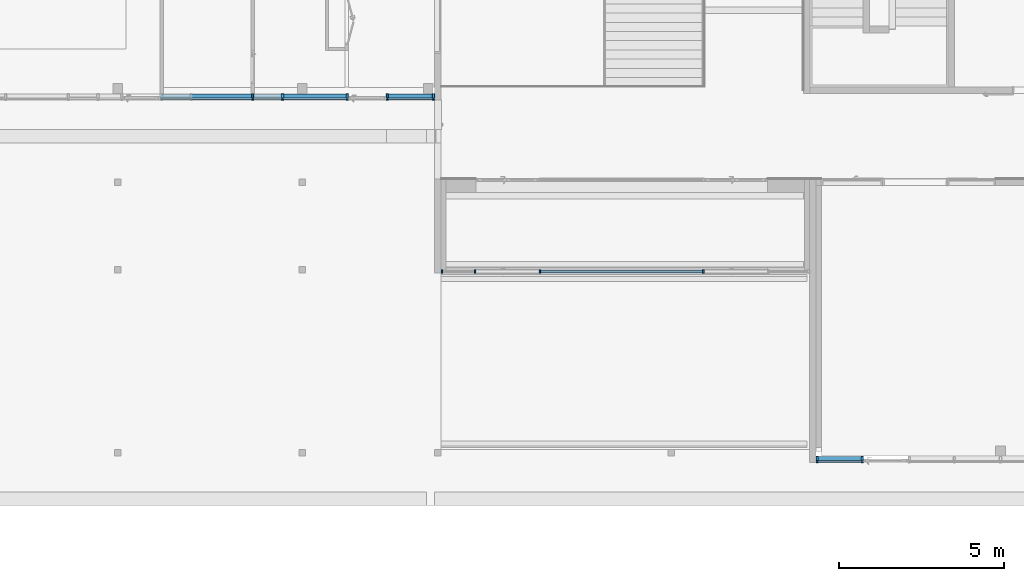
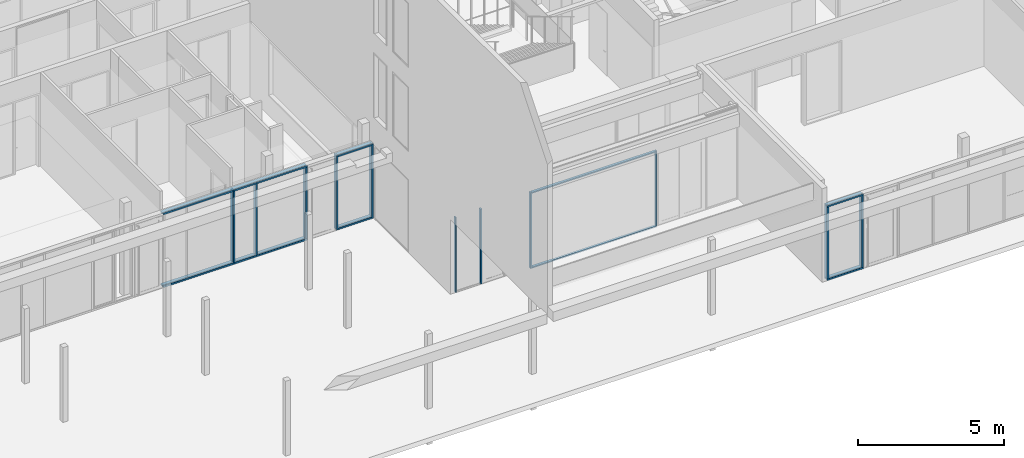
# One storey, part 19 of 240: 22 members, 5 elements without a shape of their own.
"""IFC2X3 building model written with IfcOpenShell, lengths in centimetres."""

from ifc_helpers import new_model, entity, si_unit, converted_unit, derived_unit, direction, frame, origin, origin_2d_with_axis, place, context, subcontext, project, spatial, polyline, rectangle, outline, extrude, source, transform, mapped, material, type_object, type_shapes, element, aggregate, save


model = new_model("IFC2X3")

# Units and contexts
model_context = context("Model", 3, precision=0.001, world=origin(), true_north=direction((6.12303176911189e-17, 1.0)))
body_context = subcontext(model_context, "Body", "Model", "MODEL_VIEW")
ifc_project = project(units=[si_unit("LENGTHUNIT", "METRE", prefix="CENTI"), si_unit("AREAUNIT", "SQUARE_METRE"), si_unit("VOLUMEUNIT", "CUBIC_METRE"), converted_unit("PLANEANGLEUNIT", "DEGREE", entity("IfcRatioMeasure", 0.0174532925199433), si_unit("PLANEANGLEUNIT", "RADIAN"), dimensions=[0, 0, 0, 0, 0, 0, 0]), si_unit("MASSUNIT", "GRAM", prefix="KILO"), derived_unit("MASSDENSITYUNIT", [(si_unit("MASSUNIT", "GRAM", prefix="KILO"), 1), (si_unit("LENGTHUNIT", "METRE"), -3)]), si_unit("TIMEUNIT", "SECOND"), si_unit("FREQUENCYUNIT", "HERTZ"), si_unit("THERMODYNAMICTEMPERATUREUNIT", "DEGREE_CELSIUS"), derived_unit("THERMALTRANSMITTANCEUNIT", [(si_unit("MASSUNIT", "GRAM", prefix="KILO"), 1), (si_unit("THERMODYNAMICTEMPERATUREUNIT", "KELVIN"), -1), (si_unit("TIMEUNIT", "SECOND"), -3)]), derived_unit("VOLUMETRICFLOWRATEUNIT", [(si_unit("LENGTHUNIT", "METRE"), 3), (si_unit("TIMEUNIT", "SECOND"), -1)]), si_unit("ELECTRICCURRENTUNIT", "AMPERE"), si_unit("ELECTRICVOLTAGEUNIT", "VOLT"), si_unit("POWERUNIT", "WATT"), si_unit("FORCEUNIT", "NEWTON", prefix="KILO"), si_unit("ILLUMINANCEUNIT", "LUX"), si_unit("LUMINOUSFLUXUNIT", "LUMEN"), si_unit("LUMINOUSINTENSITYUNIT", "CANDELA"), derived_unit("USERDEFINED", [(si_unit("MASSUNIT", "GRAM", prefix="KILO"), -1), (si_unit("LENGTHUNIT", "METRE"), -2), (si_unit("TIMEUNIT", "SECOND"), 3), (si_unit("LUMINOUSFLUXUNIT", "LUMEN"), 1)]), derived_unit("LINEARVELOCITYUNIT", [(si_unit("LENGTHUNIT", "METRE"), 1), (si_unit("TIMEUNIT", "SECOND"), -1)]), si_unit("PRESSUREUNIT", "PASCAL"), derived_unit("USERDEFINED", [(si_unit("LENGTHUNIT", "METRE"), -2), (si_unit("MASSUNIT", "GRAM", prefix="KILO"), 1), (si_unit("TIMEUNIT", "SECOND"), -2)])], contexts=[model_context])

# Site, building, storey
site_placement = place(None, frame((-2781.94577612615, 7442.24238424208, 0.0)))
site = spatial("IfcSite", under=ifc_project, at=site_placement, Name="Default", CompositionType="ELEMENT")
building_placement = place(site_placement, origin())
building = spatial("IfcBuilding", under=site, at=building_placement, CompositionType="ELEMENT")
storey_placement = place(building_placement, origin())
storey = spatial("IfcBuildingStorey", under=building, at=storey_placement, Name="N00 - COO", CompositionType="ELEMENT", Elevation=0.0)

# Curtain wall, member
curtain_wall_type_1 = type_object("IfcCurtainWallType", Name="Mur-rideau:07 - mur rideau trame 140 cm", PredefinedType="NOTDEFINED")
curtain_wall_1_placement = place(building_placement, origin())
curtain_wall_1 = element("IfcCurtainWall", 1, at=curtain_wall_1_placement, inside=storey, type_object=curtain_wall_type_1, Name="Mur-rideau:07 - mur rideau trame 140 cm", ObjectType="Mur-rideau:07 - mur rideau trame 140 cm")
ifc_material_1 = material(Name="Aluminium")
member_type_1 = type_object("IfcMemberType", Name="150 x 25mm Détails", PredefinedType="MEMBER")
shared_shape_1 = source(origin(), body_context, "Body", "SweptSolid", [
    extrude(outline(polyline([(-5.66666666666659, -3.25), (-3.66666666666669, -3.25), (-3.66666666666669, -0.868749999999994), (-0.166666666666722, -0.868749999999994), (-0.166666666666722, -3.25000000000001), (13.3333333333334, -3.24999999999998), (13.3333333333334, 3.25000000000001), (-0.166666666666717, 3.25000000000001), (-0.166666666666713, 0.868749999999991), (-3.66666666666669, 0.868749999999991), (-3.66666666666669, 3.24999999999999), (-5.66666666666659, 3.24999999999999), (-5.66666666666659, -3.25)])), frame((-3.24999999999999, -1.96666666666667, -299.5), z_axis=(0.0, 0.0, 1.0), x_axis=(0.0, -1.0, 0.0)), (0.0, 0.0, 1.0), 299.5),
])
type_shapes(member_type_1, [shared_shape_1])
member_1_placement = place(building_placement, frame((-3629.49987968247, -3046.51349958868, 306.0), z_axis=(0.0, 0.0, 1.0), x_axis=(-1.0, 0.0, 0.0)))
member_1 = element("IfcMember", 2, at=member_1_placement, type_object=member_type_1, material=ifc_material_1, Name="Meneau rectangulaire:150 x 25mm Détails", ObjectType="Meneau rectangulaire:150 x 25mm Détails", context=body_context, shape_type="MappedRepresentation", body=[
    mapped(shared_shape_1, transform((0.0, 0.0, 0.0), scale=1.0)),
])

# Curtain wall, members
curtain_wall_type_2 = type_object("IfcCurtainWallType", Name="Mur-rideau:07 - mur rideau trame 280 cm", PredefinedType="NOTDEFINED")
curtain_wall_2_placement = place(building_placement, origin())
curtain_wall_2 = element("IfcCurtainWall", 3, at=curtain_wall_2_placement, inside=storey, type_object=curtain_wall_type_2, Name="Mur-rideau:07 - mur rideau trame 280 cm", ObjectType="Mur-rideau:07 - mur rideau trame 280 cm")
member_2_placement = place(building_placement, frame((-5252.74987757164, -1946.27903364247, 306.0), z_axis=(0.0, 0.0, 1.0), x_axis=(-1.0, 0.0, 0.0)))
member_2 = element("IfcMember", 4, at=member_2_placement, type_object=member_type_1, material=ifc_material_1, Name="Meneau rectangulaire:150 x 25mm Détails", ObjectType="Meneau rectangulaire:150 x 25mm Détails", context=body_context, shape_type="MappedRepresentation", body=[
    mapped(shared_shape_1, transform((0.0, 0.0, 0.0), scale=1.0)),
])
member_type_2 = type_object("IfcMemberType", Name="150 x 25mm Détails", PredefinedType="MEMBER")
shared_shape_2 = source(origin(), body_context, "Body", "SweptSolid", [
    extrude(outline(polyline([(-5.6666666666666, -3.24999999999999), (-3.66666666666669, -3.24999999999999), (-3.66666666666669, -0.868749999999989), (-0.166666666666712, -0.868749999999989), (-0.166666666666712, -3.25000000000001), (13.3333333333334, -3.25000000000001), (13.3333333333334, 3.24999999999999), (-0.16666666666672, 3.24999999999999), (-0.16666666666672, 0.868749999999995), (-3.66666666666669, 0.868749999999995), (-3.66666666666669, 3.25), (-5.6666666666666, 3.25), (-5.6666666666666, -3.24999999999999)])), frame((-3.24999999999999, -1.96666666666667, -299.5), z_axis=(0.0, 0.0, 1.0), x_axis=(0.0, -1.0, 0.0)), (0.0, 0.0, 1.0), 299.5),
])
type_shapes(member_type_2, [shared_shape_2])
member_3_placement = place(building_placement, frame((-5336.24987757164, -1946.27903364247, 6.5), z_axis=(0.0, 0.0, -1.0), x_axis=(1.0, 0.0, 0.0)))
member_3 = element("IfcMember", 5, at=member_3_placement, type_object=member_type_2, material=ifc_material_1, Name="Meneau rectangulaire:150 x 25mm Détails", ObjectType="Meneau rectangulaire:150 x 25mm Détails", context=body_context, shape_type="MappedRepresentation", body=[
    mapped(shared_shape_2, transform((0.0, 0.0, 0.0), scale=1.0)),
])

# Member
member_type_3 = type_object("IfcMemberType", Name="150 x 25mm Détails", PredefinedType="MEMBER")
shared_shape_3 = source(origin(), body_context, "Body", "SweptSolid", [
    extrude(outline(polyline([(-5.66666666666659, -3.25), (-3.66666666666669, -3.25), (-3.66666666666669, -0.868749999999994), (-0.166666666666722, -0.868749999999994), (-0.166666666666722, -3.25000000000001), (13.3333333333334, -3.24999999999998), (13.3333333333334, 3.25000000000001), (-0.166666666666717, 3.25000000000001), (-0.166666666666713, 0.868749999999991), (-3.66666666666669, 0.868749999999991), (-3.66666666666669, 3.24999999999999), (-5.66666666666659, 3.24999999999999), (-5.66666666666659, -3.25)])), frame((-3.24999999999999, -1.96666666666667, -143.25000003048), z_axis=(0.0, 0.0, 1.0), x_axis=(0.0, -1.0, 0.0)), (0.0, 0.0, 1.0), 143.25000003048),
])
type_shapes(member_type_3, [shared_shape_3])
member_4_placement = place(building_placement, frame((-3629.49987968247, -3046.51349958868, 0.0), z_axis=(-1.0, 0.0, 0.0), x_axis=(0.0, 0.0, -1.0)))
member_4 = element("IfcMember", 6, at=member_4_placement, type_object=member_type_3, material=ifc_material_1, Name="Meneau rectangulaire:150 x 25mm Détails", ObjectType="Meneau rectangulaire:150 x 25mm Détails", context=body_context, shape_type="MappedRepresentation", body=[
    mapped(shared_shape_3, transform((0.0, 0.0, 0.0), scale=1.0)),
])

member_type_4 = type_object("IfcMemberType", Name="150 x 25mm Détails", PredefinedType="MEMBER")
shared_shape_4 = source(origin(), body_context, "Body", "SweptSolid", [
    extrude(outline(polyline([(-5.6666666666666, -3.24999999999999), (-3.66666666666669, -3.24999999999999), (-3.66666666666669, -0.868749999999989), (-0.166666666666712, -0.868749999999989), (-0.166666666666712, -3.25000000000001), (13.3333333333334, -3.25000000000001), (13.3333333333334, 3.24999999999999), (-0.16666666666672, 3.24999999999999), (-0.16666666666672, 0.868749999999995), (-3.66666666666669, 0.868749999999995), (-3.66666666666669, 3.25), (-5.6666666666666, 3.25), (-5.6666666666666, -3.24999999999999)])), frame((-3.24999999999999, -1.96666666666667, -143.25000003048), z_axis=(0.0, 0.0, 1.0), x_axis=(0.0, -1.0, 0.0)), (0.0, 0.0, 1.0), 143.25000003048),
])
type_shapes(member_type_4, [shared_shape_4])
member_5_placement = place(building_placement, frame((-3486.24987965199, -3046.51349958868, 312.5), z_axis=(1.0, 0.0, 0.0), x_axis=(0.0, 0.0, 1.0)))
member_5 = element("IfcMember", 7, at=member_5_placement, type_object=member_type_4, material=ifc_material_1, Name="Meneau rectangulaire:150 x 25mm Détails", ObjectType="Meneau rectangulaire:150 x 25mm Détails", context=body_context, shape_type="MappedRepresentation", body=[
    mapped(shared_shape_4, transform((0.0, 0.0, 0.0), scale=1.0)),
])

member_type_5 = type_object("IfcMemberType", Name="150 x 25mm Détails", PredefinedType="MEMBER")
shared_shape_5 = source(origin(), body_context, "Body", "SweptSolid", [
    extrude(outline(polyline([(-5.6666666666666, -3.24999999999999), (-3.66666666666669, -3.24999999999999), (-3.66666666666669, -0.86874999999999), (-0.166666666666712, -0.86874999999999), (-0.166666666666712, -3.25000000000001), (13.3333333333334, -3.25000000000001), (13.3333333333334, 3.24999999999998), (-0.16666666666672, 3.24999999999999), (-0.16666666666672, 0.868749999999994), (-3.66666666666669, 0.868749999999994), (-3.66666666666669, 3.25), (-5.6666666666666, 3.25), (-5.6666666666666, -3.24999999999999)])), frame((0.0, -1.96666666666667, -299.5), z_axis=(0.0, 0.0, 1.0), x_axis=(0.0, -1.0, 0.0)), (0.0, 0.0, 1.0), 299.5),
])
type_shapes(member_type_5, [shared_shape_5])
member_6_placement = place(building_placement, frame((-3489.49987965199, -3046.51349958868, 6.49999999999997), z_axis=(0.0, 0.0, -1.0), x_axis=(1.0, 0.0, 0.0)))
member_6 = element("IfcMember", 8, at=member_6_placement, type_object=member_type_5, material=ifc_material_1, Name="Meneau rectangulaire:150 x 25mm Détails", ObjectType="Meneau rectangulaire:150 x 25mm Détails", context=body_context, shape_type="MappedRepresentation", body=[
    mapped(shared_shape_5, transform((0.0, 0.0, 0.0), scale=1.0)),
])

aggregate(curtain_wall_1, [member_4, member_1, member_5, member_6])

member_type_6 = type_object("IfcMemberType", Name="150 x 25mm Détails", PredefinedType="MEMBER")
shared_shape_6 = source(origin(), body_context, "Body", "SweptSolid", [
    extrude(outline(polyline([(-5.66666666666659, -3.25), (-3.66666666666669, -3.25), (-3.66666666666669, -0.868749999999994), (-0.166666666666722, -0.868749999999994), (-0.166666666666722, -3.25000000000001), (13.3333333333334, -3.24999999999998), (13.3333333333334, 3.25000000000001), (-0.166666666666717, 3.25000000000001), (-0.166666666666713, 0.868749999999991), (-3.66666666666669, 0.868749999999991), (-3.66666666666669, 3.24999999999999), (-5.66666666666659, 3.24999999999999), (-5.66666666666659, -3.25)])), frame((-3.24999999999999, -1.96666666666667, -280.0), z_axis=(0.0, 0.0, 1.0), x_axis=(0.0, -1.0, 0.0)), (0.0, 0.0, 1.0), 280.00000003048),
])
type_shapes(member_type_6, [shared_shape_6])
member_7_placement = place(building_placement, frame((-5619.49987760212, -1946.27903364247, 0.0), z_axis=(-1.0, 0.0, 0.0), x_axis=(0.0, 0.0, -1.0)))
member_7 = element("IfcMember", 9, at=member_7_placement, type_object=member_type_6, material=ifc_material_1, Name="Meneau rectangulaire:150 x 25mm Détails", ObjectType="Meneau rectangulaire:150 x 25mm Détails", context=body_context, shape_type="MappedRepresentation", body=[
    mapped(shared_shape_6, transform((0.0, 0.0, 0.0), scale=1.0)),
])

member_type_7 = type_object("IfcMemberType", Name="150 x 25mm Détails", PredefinedType="MEMBER")
shared_shape_7 = source(origin(), body_context, "Body", "SweptSolid", [
    extrude(outline(polyline([(-5.66666666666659, -3.24999999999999), (-3.66666666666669, -3.24999999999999), (-3.66666666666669, -0.86874999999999), (-0.166666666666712, -0.86874999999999), (-0.166666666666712, -3.25000000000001), (13.3333333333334, -3.25000000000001), (13.3333333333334, 3.24999999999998), (-0.166666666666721, 3.24999999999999), (-0.166666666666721, 0.868749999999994), (-3.66666666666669, 0.868749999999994), (-3.66666666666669, 3.25), (-5.66666666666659, 3.25), (-5.66666666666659, -3.24999999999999)])), frame((0.0, -1.96666666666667, -298.0), z_axis=(0.0, 0.0, 1.0), x_axis=(0.0, -1.0, 0.0)), (0.0, 0.0, 1.0), 298.0),
])
type_shapes(member_type_7, [shared_shape_7])
member_8_placement = place(building_placement, frame((-5339.49987757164, -1946.27903364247, 6.49999999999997), z_axis=(0.0, 0.0, -1.0), x_axis=(1.0, 0.0, 0.0)))
member_8 = element("IfcMember", 10, at=member_8_placement, type_object=member_type_7, material=ifc_material_1, Name="Meneau rectangulaire:150 x 25mm Détails", ObjectType="Meneau rectangulaire:150 x 25mm Détails", context=body_context, shape_type="MappedRepresentation", body=[
    mapped(shared_shape_7, transform((0.0, 0.0, 0.0), scale=1.0)),
])

member_9_placement = place(building_placement, frame((-5052.74987760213, -1946.27903364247, 6.49999999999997), z_axis=(0.0, 0.0, -1.0), x_axis=(1.0, 0.0, 0.0)))
member_9 = element("IfcMember", 11, at=member_9_placement, type_object=member_type_7, material=ifc_material_1, Name="Meneau rectangulaire:150 x 25mm Détails", ObjectType="Meneau rectangulaire:150 x 25mm Détails", context=body_context, shape_type="MappedRepresentation", body=[
    mapped(shared_shape_7, transform((0.0, 0.0, 0.0), scale=1.0)),
])

member_type_8 = type_object("IfcMemberType", Name="150 x 25mm Détails", PredefinedType="MEMBER")
shared_shape_8 = source(origin(), body_context, "Body", "SweptSolid", [
    extrude(outline(polyline([(-5.6666666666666, -3.24999999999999), (-3.66666666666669, -3.24999999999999), (-3.66666666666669, -0.868749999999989), (-0.166666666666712, -0.868749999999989), (-0.166666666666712, -3.25000000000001), (13.3333333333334, -3.25000000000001), (13.3333333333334, 3.24999999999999), (-0.16666666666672, 3.24999999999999), (-0.16666666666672, 0.868749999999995), (-3.66666666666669, 0.868749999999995), (-3.66666666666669, 3.25), (-5.6666666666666, 3.25), (-5.6666666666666, -3.24999999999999)])), frame((-3.24999999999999, -1.96666666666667, -280.0), z_axis=(0.0, 0.0, 1.0), x_axis=(0.0, -1.0, 0.0)), (0.0, 0.0, 1.0), 280.00000003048),
])
type_shapes(member_type_8, [shared_shape_8])
member_10_placement = place(building_placement, frame((-5339.49987757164, -1946.27903364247, 311.0), z_axis=(1.0, 0.0, 0.0), x_axis=(0.0, 0.0, 1.0)))
member_10 = element("IfcMember", 12, at=member_10_placement, type_object=member_type_8, material=ifc_material_1, Name="Meneau rectangulaire:150 x 25mm Détails", ObjectType="Meneau rectangulaire:150 x 25mm Détails", context=body_context, shape_type="MappedRepresentation", body=[
    mapped(shared_shape_8, transform((0.0, 0.0, 0.0), scale=1.0)),
])

# Curtain wall, members
curtain_wall_type_3 = type_object("IfcCurtainWallType", PredefinedType="NOTDEFINED")
curtain_wall_3_placement = place(building_placement, origin())
curtain_wall_3 = element("IfcCurtainWall", 13, at=curtain_wall_3_placement, inside=storey, type_object=curtain_wall_type_3)
ifc_material_2 = material(Name="Plastique, blanc opaque")
member_type_9 = type_object("IfcMemberType", Name="100 x 50mm", PredefinedType="MEMBER")
shared_shape_9 = source(origin(), body_context, "Body", "SweptSolid", [
    extrude(rectangle(XDim=10.0, YDim=5.0, at=origin_2d_with_axis()), frame((-2.5, 0.0, -490.0), z_axis=(0.0, 0.0, 1.0), x_axis=(0.0, -1.0, 0.0)), (0.0, 0.0, 1.0), 490.0),
])
type_shapes(member_type_9, [shared_shape_9])
member_11_placement = place(building_placement, frame((-3974.99987968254, -2470.15656731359, 313.0), z_axis=(1.0, 0.0, 0.0), x_axis=(0.0, 0.0, 1.0)))
member_11 = element("IfcMember", 14, at=member_11_placement, type_object=member_type_9, material=ifc_material_2, Name="Meneau rectangulaire:100 x 50mm", ObjectType="Meneau rectangulaire:100 x 50mm", context=body_context, shape_type="MappedRepresentation", body=[
    mapped(shared_shape_9, transform((0.0, 0.0, 0.0), scale=1.0)),
])
member_type_10 = type_object("IfcMemberType", Name="100 x 50mm", PredefinedType="MEMBER")
shared_shape_10 = source(origin(), body_context, "Body", "SweptSolid", [
    extrude(rectangle(XDim=10.0, YDim=5.0, at=origin_2d_with_axis()), frame((-2.5, 0.0, -490.0), z_axis=(0.0, 0.0, 1.0), x_axis=(0.0, -1.0, 0.0)), (0.0, 0.0, 1.0), 490.0),
])
type_shapes(member_type_10, [shared_shape_10])
member_12_placement = place(building_placement, frame((-4464.99987968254, -2470.15656731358, -5.0), z_axis=(-1.0, 0.0, 0.0), x_axis=(0.0, 0.0, -1.0)))
member_12 = element("IfcMember", 15, at=member_12_placement, type_object=member_type_10, material=ifc_material_2, Name="Meneau rectangulaire:100 x 50mm", ObjectType="Meneau rectangulaire:100 x 50mm", context=body_context, shape_type="MappedRepresentation", body=[
    mapped(shared_shape_10, transform((0.0, 0.0, 0.0), scale=1.0)),
])

curtain_wall_type_4 = type_object("IfcCurtainWallType", Name="Mur-rideau:07 - mur rideau vitrage sans recoupement 10cm", PredefinedType="NOTDEFINED")
curtain_wall_4_placement = place(building_placement, origin())
curtain_wall_4 = element("IfcCurtainWall", 16, at=curtain_wall_4_placement, inside=storey, type_object=curtain_wall_type_4, Name="Mur-rideau:07 - mur rideau vitrage sans recoupement 10cm", ObjectType="Mur-rideau:07 - mur rideau vitrage sans recoupement 10cm")
member_type_11 = type_object("IfcMemberType", Name="100 x 50mm", PredefinedType="MEMBER")
shared_shape_11 = source(origin(), body_context, "Body", "SweptSolid", [
    extrude(rectangle(XDim=10.0, YDim=5.0, at=origin_2d_with_axis()), frame((-2.5, 0.0, -313.0), z_axis=(0.0, 0.0, 1.0), x_axis=(0.0, -1.0, 0.0)), (0.0, 0.0, 1.0), 313.0),
])
type_shapes(member_type_11, [shared_shape_11])
member_13_placement = place(building_placement, frame((-4662.73692494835, -2470.15656731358, 0.0), z_axis=(0.0, 0.0, -1.0), x_axis=(1.0, 0.0, 0.0)))
member_13 = element("IfcMember", 17, at=member_13_placement, type_object=member_type_11, material=ifc_material_2, Name="Meneau rectangulaire:100 x 50mm", ObjectType="Meneau rectangulaire:100 x 50mm", context=body_context, shape_type="MappedRepresentation", body=[
    mapped(shared_shape_11, transform((0.0, 0.0, 0.0), scale=1.0)),
])
member_type_12 = type_object("IfcMemberType", Name="100 x 50mm", PredefinedType="MEMBER")
shared_shape_12 = source(origin(), body_context, "Body", "SweptSolid", [
    extrude(rectangle(XDim=10.0, YDim=5.0, at=origin_2d_with_axis()), frame((-2.5, 0.0, -313.0), z_axis=(0.0, 0.0, 1.0), x_axis=(0.0, -1.0, 0.0)), (0.0, 0.0, 1.0), 313.0),
])
type_shapes(member_type_12, [shared_shape_12])
member_14_placement = place(building_placement, frame((-4767.99987760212, -2470.15656731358, 313.0), z_axis=(0.0, 0.0, 1.0), x_axis=(-1.0, 0.0, 0.0)))
member_14 = element("IfcMember", 18, at=member_14_placement, type_object=member_type_12, material=ifc_material_2, Name="Meneau rectangulaire:100 x 50mm", ObjectType="Meneau rectangulaire:100 x 50mm", context=body_context, shape_type="MappedRepresentation", body=[
    mapped(shared_shape_12, transform((0.0, 0.0, 0.0), scale=1.0)),
])
aggregate(curtain_wall_4, [member_13, member_14])

# Member
member_type_13 = type_object("IfcMemberType", Name="100 x 50mm", PredefinedType="MEMBER")
shared_shape_13 = source(origin(), body_context, "Body", "SweptSolid", [
    extrude(rectangle(XDim=10.0, YDim=5.0, at=origin_2d_with_axis()), frame((-2.5, 0.0, -318.0), z_axis=(0.0, 0.0, 1.0), x_axis=(0.0, -1.0, 0.0)), (0.0, 0.0, 1.0), 318.00000000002),
])
type_shapes(member_type_13, [shared_shape_13])
member_15_placement = place(building_placement, frame((-3969.99987968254, -2470.15656731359, -5.0), z_axis=(0.0, 0.0, -1.0), x_axis=(1.0, 0.0, 0.0)))
member_15 = element("IfcMember", 19, at=member_15_placement, type_object=member_type_13, material=ifc_material_2, Name="Meneau rectangulaire:100 x 50mm", ObjectType="Meneau rectangulaire:100 x 50mm", context=body_context, shape_type="MappedRepresentation", body=[
    mapped(shared_shape_13, transform((0.0, 0.0, 0.0), scale=1.0)),
])

member_type_14 = type_object("IfcMemberType", Name="100 x 50mm", PredefinedType="MEMBER")
shared_shape_14 = source(origin(), body_context, "Body", "SweptSolid", [
    extrude(rectangle(XDim=10.0, YDim=5.0, at=origin_2d_with_axis()), frame((-2.5, 0.0, -318.0), z_axis=(0.0, 0.0, 1.0), x_axis=(0.0, -1.0, 0.0)), (0.0, 0.0, 1.0), 318.000000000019),
])
type_shapes(member_type_14, [shared_shape_14])
member_16_placement = place(building_placement, frame((-4469.99987968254, -2470.15656731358, 313.0), z_axis=(0.0, 0.0, 1.0), x_axis=(-1.0, 0.0, 0.0)))
member_16 = element("IfcMember", 20, at=member_16_placement, type_object=member_type_14, material=ifc_material_2, Name="Meneau rectangulaire:100 x 50mm", ObjectType="Meneau rectangulaire:100 x 50mm", context=body_context, shape_type="MappedRepresentation", body=[
    mapped(shared_shape_14, transform((0.0, 0.0, 0.0), scale=1.0)),
])

aggregate(curtain_wall_3, [member_11, member_12, member_15, member_16])

# Curtain wall, members
curtain_wall_5_placement = place(building_placement, origin())
curtain_wall_5 = element("IfcCurtainWall", 21, at=curtain_wall_5_placement, inside=storey, type_object=curtain_wall_type_2, Name="Mur-rideau:07 - mur rideau trame 280 cm", ObjectType="Mur-rideau:07 - mur rideau trame 280 cm")
member_type_15 = type_object("IfcMemberType", Name="150 x 25mm Détails", PredefinedType="MEMBER")
shared_shape_15 = source(origin(), body_context, "Body", "SweptSolid", [
    extrude(outline(polyline([(-13.3333333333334, -3.25000000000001), (0.166666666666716, -3.25000000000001), (0.166666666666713, -0.86874999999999), (3.66666666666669, -0.86874999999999), (3.66666666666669, -3.24999999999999), (5.66666666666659, -3.24999999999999), (5.66666666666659, 3.25), (3.66666666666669, 3.25), (3.66666666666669, 0.868749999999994), (0.166666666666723, 0.868749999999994), (0.166666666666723, 3.25000000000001), (-13.3333333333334, 3.24999999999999), (-13.3333333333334, -3.25000000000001)])), frame((-3.24999999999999, 1.96666666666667, -133.519999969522), z_axis=(0.0, 0.0, 1.0), x_axis=(0.0, -1.0, 0.0)), (0.0, 0.0, 1.0), 133.519999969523),
])
type_shapes(member_type_15, [shared_shape_15])
member_17_placement = place(building_placement, frame((-4928.01987757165, -1946.27903364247, 311.0), z_axis=(-1.0, 0.0, 0.0), x_axis=(0.0, 0.0, 1.0)))
member_17 = element("IfcMember", 22, at=member_17_placement, type_object=member_type_15, material=ifc_material_1, Name="Meneau rectangulaire:150 x 25mm Détails", ObjectType="Meneau rectangulaire:150 x 25mm Détails", context=body_context, shape_type="MappedRepresentation", body=[
    mapped(shared_shape_15, transform((0.0, 0.0, 0.0), scale=1.0)),
])
member_type_16 = type_object("IfcMemberType", Name="150 x 25mm Détails", PredefinedType="MEMBER")
shared_shape_16 = source(origin(), body_context, "Body", "SweptSolid", [
    extrude(outline(polyline([(-13.3333333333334, -3.24999999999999), (0.166666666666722, -3.24999999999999), (0.166666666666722, -0.868749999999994), (3.66666666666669, -0.868749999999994), (3.66666666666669, -3.25), (5.66666666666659, -3.25), (5.66666666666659, 3.24999999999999), (3.66666666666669, 3.24999999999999), (3.66666666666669, 0.86874999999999), (0.166666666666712, 0.86874999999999), (0.166666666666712, 3.25000000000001), (-13.3333333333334, 3.25000000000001), (-13.3333333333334, -3.24999999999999)])), frame((-3.24999999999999, 1.96666666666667, -133.519999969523), z_axis=(0.0, 0.0, 1.0), x_axis=(0.0, -1.0, 0.0)), (0.0, 0.0, 1.0), 133.519999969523),
])
type_shapes(member_type_16, [shared_shape_16])
member_18_placement = place(building_placement, frame((-4794.49987760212, -1946.27903364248, 0.0), z_axis=(1.0, 0.0, 0.0), x_axis=(0.0, 0.0, -1.0)))
member_18 = element("IfcMember", 23, at=member_18_placement, type_object=member_type_16, material=ifc_material_1, Name="Meneau rectangulaire:150 x 25mm Détails", ObjectType="Meneau rectangulaire:150 x 25mm Détails", context=body_context, shape_type="MappedRepresentation", body=[
    mapped(shared_shape_16, transform((0.0, 0.0, 0.0), scale=1.0)),
])
member_type_17 = type_object("IfcMemberType", Name="150 x 25mm Détails", PredefinedType="MEMBER")
shared_shape_17 = source(origin(), body_context, "Body", "SweptSolid", [
    extrude(outline(polyline([(-13.3333333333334, -3.25000000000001), (0.166666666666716, -3.25000000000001), (0.166666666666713, -0.86874999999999), (3.66666666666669, -0.86874999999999), (3.66666666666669, -3.24999999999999), (5.66666666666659, -3.24999999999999), (5.66666666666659, 3.25), (3.66666666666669, 3.25), (3.66666666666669, 0.868749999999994), (0.166666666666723, 0.868749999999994), (0.166666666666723, 3.25000000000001), (-13.3333333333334, 3.24999999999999), (-13.3333333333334, -3.25000000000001)])), frame((-3.24999999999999, 1.96666666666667, -311.0), z_axis=(0.0, 0.0, 1.0), x_axis=(0.0, -1.0, 0.0)), (0.0, 0.0, 1.0), 311.0),
])
type_shapes(member_type_17, [shared_shape_17])
member_19_placement = place(building_placement, frame((-4934.51987757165, -1946.27903364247, 0.0), z_axis=(0.0, 0.0, -1.0), x_axis=(-1.0, 0.0, 0.0)))
member_19 = element("IfcMember", 24, at=member_19_placement, type_object=member_type_17, material=ifc_material_1, Name="Meneau rectangulaire:150 x 25mm Détails", ObjectType="Meneau rectangulaire:150 x 25mm Détails", context=body_context, shape_type="MappedRepresentation", body=[
    mapped(shared_shape_17, transform((0.0, 0.0, 0.0), scale=1.0)),
])
member_type_18 = type_object("IfcMemberType", Name="150 x 25mm Détails", PredefinedType="MEMBER")
shared_shape_18 = source(origin(), body_context, "Body", "SweptSolid", [
    extrude(outline(polyline([(-13.3333333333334, -3.24999999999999), (0.166666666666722, -3.24999999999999), (0.166666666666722, -0.868749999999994), (3.66666666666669, -0.868749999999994), (3.66666666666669, -3.25), (5.66666666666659, -3.25), (5.66666666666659, 3.24999999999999), (3.66666666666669, 3.24999999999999), (3.66666666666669, 0.86874999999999), (0.166666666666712, 0.86874999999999), (0.166666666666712, 3.25000000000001), (-13.3333333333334, 3.25000000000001), (-13.3333333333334, -3.24999999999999)])), frame((-3.24999999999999, 1.96666666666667, -311.0), z_axis=(0.0, 0.0, 1.0), x_axis=(0.0, -1.0, 0.0)), (0.0, 0.0, 1.0), 311.0),
])
type_shapes(member_type_18, [shared_shape_18])
member_20_placement = place(building_placement, frame((-4787.99987760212, -1946.27903364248, 311.0)))
member_20 = element("IfcMember", 25, at=member_20_placement, type_object=member_type_18, material=ifc_material_1, Name="Meneau rectangulaire:150 x 25mm Détails", ObjectType="Meneau rectangulaire:150 x 25mm Détails", context=body_context, shape_type="MappedRepresentation", body=[
    mapped(shared_shape_18, transform((0.0, 0.0, 0.0), scale=1.0)),
])
aggregate(curtain_wall_5, [member_17, member_18, member_19, member_20])

# Member
member_type_19 = type_object("IfcMemberType", Name="150 x 25mm Détails", PredefinedType="MEMBER")
shared_shape_19 = source(origin(), body_context, "Body", "SweptSolid", [
    extrude(outline(polyline([(-5.66666666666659, -3.25), (-3.66666666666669, -3.25), (-3.66666666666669, -0.868749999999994), (-0.166666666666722, -0.868749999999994), (-0.166666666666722, -3.25000000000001), (13.3333333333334, -3.24999999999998), (13.3333333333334, 3.25000000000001), (-0.166666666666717, 3.25000000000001), (-0.166666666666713, 0.868749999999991), (-3.66666666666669, 0.868749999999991), (-3.66666666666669, 3.24999999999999), (-5.66666666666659, 3.24999999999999), (-5.66666666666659, -3.25)])), frame((-3.24999999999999, -1.96666666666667, -290.0), z_axis=(0.0, 0.0, 1.0), x_axis=(0.0, -1.0, 0.0)), (0.0, 0.0, 1.0), 289.999999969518),
])
type_shapes(member_type_19, [shared_shape_19])
member_21_placement = place(building_placement, frame((-5339.49987757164, -1946.27903364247, 0.0), z_axis=(-1.0, 0.0, 0.0), x_axis=(0.0, 0.0, -1.0)))
member_21 = element("IfcMember", 26, at=member_21_placement, type_object=member_type_19, material=ifc_material_1, Name="Meneau rectangulaire:150 x 25mm Détails", ObjectType="Meneau rectangulaire:150 x 25mm Détails", context=body_context, shape_type="MappedRepresentation", body=[
    mapped(shared_shape_19, transform((0.0, 0.0, 0.0), scale=1.0)),
])

member_type_20 = type_object("IfcMemberType", Name="150 x 25mm Détails", PredefinedType="MEMBER")
shared_shape_20 = source(origin(), body_context, "Body", "SweptSolid", [
    extrude(outline(polyline([(-5.6666666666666, -3.24999999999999), (-3.66666666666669, -3.24999999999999), (-3.66666666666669, -0.868749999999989), (-0.166666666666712, -0.868749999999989), (-0.166666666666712, -3.25000000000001), (13.3333333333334, -3.25000000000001), (13.3333333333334, 3.24999999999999), (-0.16666666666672, 3.24999999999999), (-0.16666666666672, 0.868749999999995), (-3.66666666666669, 0.868749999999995), (-3.66666666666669, 3.25), (-5.6666666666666, 3.25), (-5.6666666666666, -3.24999999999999)])), frame((-3.24999999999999, -1.96666666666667, -290.0), z_axis=(0.0, 0.0, 1.0), x_axis=(0.0, -1.0, 0.0)), (0.0, 0.0, 1.0), 289.999999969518),
])
type_shapes(member_type_20, [shared_shape_20])
member_22_placement = place(building_placement, frame((-5049.49987760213, -1946.27903364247, 311.0), z_axis=(1.0, 0.0, 0.0), x_axis=(0.0, 0.0, 1.0)))
member_22 = element("IfcMember", 27, at=member_22_placement, type_object=member_type_20, material=ifc_material_1, Name="Meneau rectangulaire:150 x 25mm Détails", ObjectType="Meneau rectangulaire:150 x 25mm Détails", context=body_context, shape_type="MappedRepresentation", body=[
    mapped(shared_shape_20, transform((0.0, 0.0, 0.0), scale=1.0)),
])

aggregate(curtain_wall_2, [member_21, member_8, member_9, member_2, member_3, member_7, member_10, member_22])

save(model, "model.ifc")
